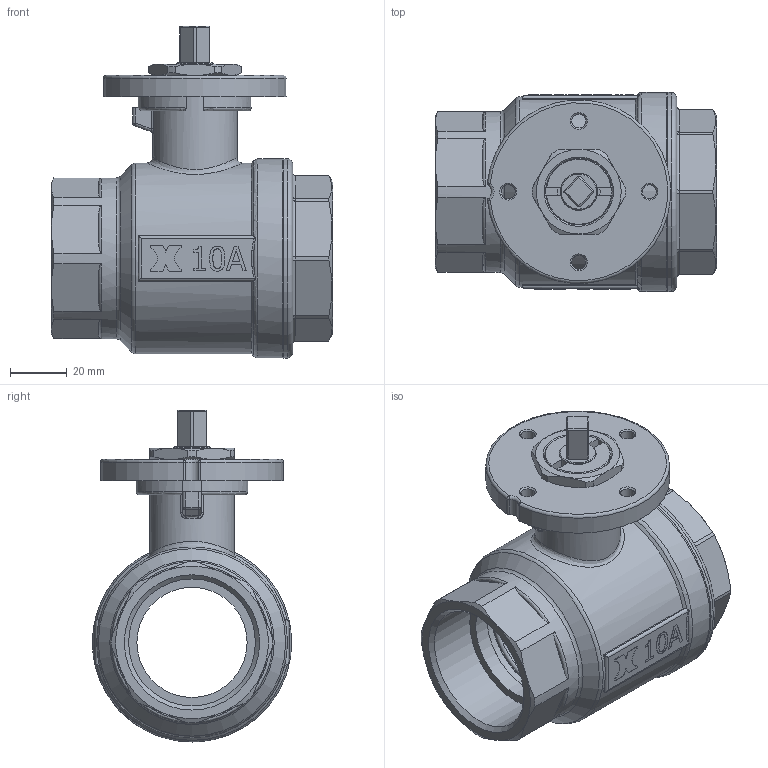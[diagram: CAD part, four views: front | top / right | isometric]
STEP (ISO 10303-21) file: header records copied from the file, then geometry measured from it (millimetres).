
FILE_DESCRIPTION((''),'2;1');
FILE_NAME('C:\Documents and Settings\ut4\Desktop\TICOM ULTIMATE\Art.105 PM SM 112.stp','2012-07-16T14:39:09',('ut4'),(''),'Autodesk Inventor 2013','Autodesk Inventor 2013','');
FILE_SCHEMA(('AUTOMOTIVE_DESIGN { 1 0 10303 214 1 1 1 1 }'));
Length unit declared in the file: millimetre
Products named in the file (13): Valvola a sfera mot. 112 art.105 PM SM; Corpo femmina 112 mot; sfera 112; O-ring 45.69 x 2; Ghiera ferma asta mot. 25; Anello antigrip. perno mot. Ø20; Boccola antigrip. perno mot. Ø20; Perno mot. 20 q8; O-ring 15.08 x 2; Sede 112; Manic. femmina-deviatore 112 mot; Dischetto portamotore SM Ø25 lav; Dado blocca piastra SM3
Assembly tree (15 placements, depth 2):
  Valvola a sfera mot. 112 art.105 PM SM
    Corpo femmina 112 mot
    sfera 112
    O-ring 45.69 x 2  x2
    Ghiera ferma asta mot. 25
    Anello antigrip. perno mot. Ø20
    Boccola antigrip. perno mot. Ø20
    Perno mot. 20 q8
    O-ring 15.08 x 2  x2
    Sede 112  x2
    Manic. femmina-deviatore 112 mot
    Dischetto portamotore SM Ø25 lav
    Dado blocca piastra SM3
Bounding box: 99.5 x 70.5 x 117.5 mm (x, y, z)
Volume: 202655.1 mm3; surface area: 98413.1 mm2
Topology: 15 solids, 15 shells, 609 faces, 1485 edges, 920 vertices
Faces by surface type: plane 252, cylinder 150, torus 69, bspline 62, cone 55, sphere 21
Full cylindrical faces by diameter (mm): 4.917 x4, 13 x1, 13.2 x2, 14.8 x1, 15.1 x1, 16 x1, 16.1 x2, 16.3 x2, 19.9 x3, 20 x2, 20.1 x1, 23 x1, 23.5 x2, 25 x2, 30 x1, 39 x3, 40 x2, 44.9 x1, 45 x1, 45.6 x2, 51 x4, 57 x1, 61.5 x1, 63 x1, 63.3 x1, 67.5 x1, 70.5 x2
Entity records: 18901 total; most frequent: CARTESIAN_POINT 4831, DIRECTION 2698, ORIENTED_EDGE 2692, EDGE_CURVE 1346, AXIS2_PLACEMENT_3D 1036, VERTEX_POINT 888, EDGE_LOOP 748, VECTOR 626
